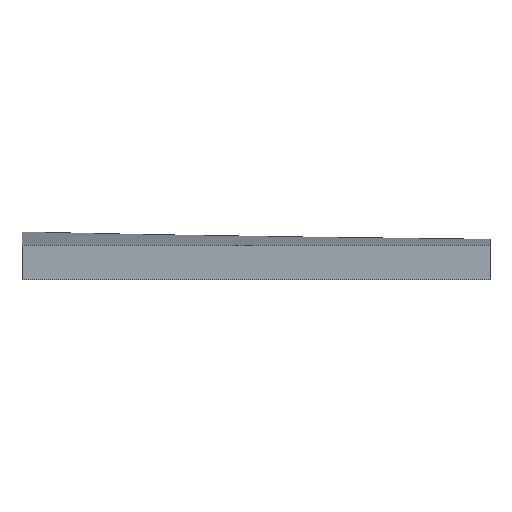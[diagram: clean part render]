
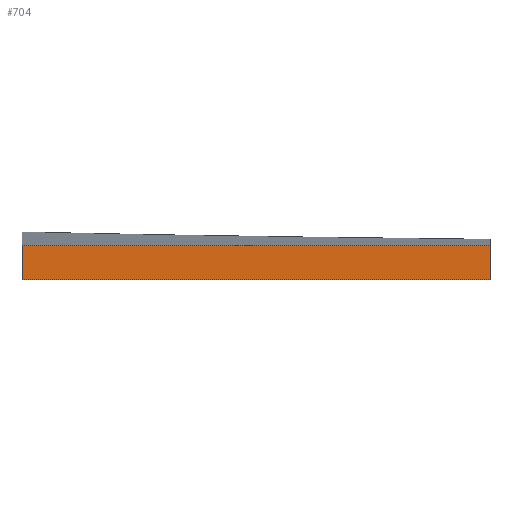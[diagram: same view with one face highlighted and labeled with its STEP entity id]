
A CAD part, top view. The second image highlights one B-rep face of the part: STEP entity #704.
In plain terms, the highlighted planar face has unit normal (0, 0, 1).
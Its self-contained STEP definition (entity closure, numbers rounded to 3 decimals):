
#59 = B_SPLINE_SURFACE_WITH_KNOTS('',8,3,(
    (#60,#61,#62,#63)
    ,(#64,#65,#66,#67)
    ,(#68,#69,#70,#71)
    ,(#72,#73,#74,#75)
    ,(#76,#77,#78,#79)
    ,(#80,#81,#82,#83)
    ,(#84,#85,#86,#87)
    ,(#88,#89,#90,#91)
    ,(#92,#93,#94,#95
    )),.UNSPECIFIED.,.F.,.F.,.F.,(9,9),(4,4),(4.,5.),(0.,1.),
  .PIECEWISE_BEZIER_KNOTS.);
#60 = CARTESIAN_POINT('',(329.,188.,100.));
#61 = CARTESIAN_POINT('',(333.035,186.258,
    217.091));
#62 = CARTESIAN_POINT('',(326.755,185.546,336.546
    ));
#63 = CARTESIAN_POINT('',(305.,176.,450.));
#64 = CARTESIAN_POINT('',(292.75,188.,100.));
#65 = CARTESIAN_POINT('',(293.885,186.258,
    217.091));
#66 = CARTESIAN_POINT('',(290.565,185.546,336.546
    ));
#67 = CARTESIAN_POINT('',(276.5,176.,450.));
#68 = CARTESIAN_POINT('',(256.5,188.,100.));
#69 = CARTESIAN_POINT('',(254.736,186.258,
    217.091));
#70 = CARTESIAN_POINT('',(254.375,185.546,336.546
    ));
#71 = CARTESIAN_POINT('',(248.,176.,450.));
#72 = CARTESIAN_POINT('',(220.25,188.,100.));
#73 = CARTESIAN_POINT('',(215.586,186.258,
    217.091));
#74 = CARTESIAN_POINT('',(218.185,185.546,336.546)
  );
#75 = CARTESIAN_POINT('',(219.5,176.,450.));
#76 = CARTESIAN_POINT('',(184.,188.,100.));
#77 = CARTESIAN_POINT('',(176.437,186.258,
    217.091));
#78 = CARTESIAN_POINT('',(181.994,185.546,336.546
    ));
#79 = CARTESIAN_POINT('',(191.,176.,450.));
#80 = CARTESIAN_POINT('',(147.75,188.,100.));
#81 = CARTESIAN_POINT('',(137.287,186.258,
    217.091));
#82 = CARTESIAN_POINT('',(145.804,185.546,336.546
    ));
#83 = CARTESIAN_POINT('',(162.5,176.,450.));
#84 = CARTESIAN_POINT('',(111.5,188.,100.));
#85 = CARTESIAN_POINT('',(98.138,186.258,
    217.091));
#86 = CARTESIAN_POINT('',(109.614,185.546,336.546
    ));
#87 = CARTESIAN_POINT('',(134.,176.,450.));
#88 = CARTESIAN_POINT('',(75.25,188.,100.));
#89 = CARTESIAN_POINT('',(58.988,186.258,
    217.091));
#90 = CARTESIAN_POINT('',(73.424,185.546,336.546
    ));
#91 = CARTESIAN_POINT('',(105.5,176.,450.));
#92 = CARTESIAN_POINT('',(39.,188.,100.));
#93 = CARTESIAN_POINT('',(19.839,186.258,
    217.091));
#94 = CARTESIAN_POINT('',(37.234,185.546,336.546)
  );
#95 = CARTESIAN_POINT('',(77.,176.,450.));
#170 = VERTEX_POINT('',#171);
#171 = CARTESIAN_POINT('',(70.,185.9,235.));
#263 = PLANE('',#264);
#264 = AXIS2_PLACEMENT_3D('',#265,#266,#267);
#265 = CARTESIAN_POINT('',(70.,-250.,0.));
#266 = DIRECTION('',(1.,0.,-0.));
#267 = DIRECTION('',(0.,0.,1.));
#309 = EDGE_CURVE('',#170,#310,#312,.T.);
#310 = VERTEX_POINT('',#311);
#311 = CARTESIAN_POINT('',(110.,185.9,235.));
#312 = SURFACE_CURVE('',#313,(#319,#328),.PCURVE_S1.);
#313 = B_SPLINE_CURVE_WITH_KNOTS('',4,(#314,#315,#316,#317,#318),
  .UNSPECIFIED.,.F.,.F.,(5,5),(0.,1.),.PIECEWISE_BEZIER_KNOTS.);
#314 = CARTESIAN_POINT('',(60.,185.9,235.));
#315 = CARTESIAN_POINT('',(72.5,185.9,235.));
#316 = CARTESIAN_POINT('',(85.,185.9,235.));
#317 = CARTESIAN_POINT('',(97.5,185.9,235.));
#318 = CARTESIAN_POINT('',(110.,185.9,235.));
#319 = PCURVE('',#59,#320);
#320 = DEFINITIONAL_REPRESENTATION('',(#321),#327);
#321 = B_SPLINE_CURVE_WITH_KNOTS('',4,(#322,#323,#324,#325,#326),
  .UNSPECIFIED.,.F.,.F.,(5,5),(0.,1.),.PIECEWISE_BEZIER_KNOTS.);
#322 = CARTESIAN_POINT('',(4.906,0.383));
#323 = CARTESIAN_POINT('',(4.864,0.383));
#324 = CARTESIAN_POINT('',(4.822,0.383));
#325 = CARTESIAN_POINT('',(4.78,0.383));
#326 = CARTESIAN_POINT('',(4.738,0.383));
#327 = ( GEOMETRIC_REPRESENTATION_CONTEXT(2) 
PARAMETRIC_REPRESENTATION_CONTEXT() REPRESENTATION_CONTEXT('2D SPACE',''
  ) );
#328 = PCURVE('',#329,#334);
#329 = PLANE('',#330);
#330 = AXIS2_PLACEMENT_3D('',#331,#332,#333);
#331 = CARTESIAN_POINT('',(60.,-250.,235.));
#332 = DIRECTION('',(0.,0.,1.));
#333 = DIRECTION('',(1.,0.,-0.));
#334 = DEFINITIONAL_REPRESENTATION('',(#335),#341);
#335 = B_SPLINE_CURVE_WITH_KNOTS('',4,(#336,#337,#338,#339,#340),
  .UNSPECIFIED.,.F.,.F.,(5,5),(0.,1.),.PIECEWISE_BEZIER_KNOTS.);
#336 = CARTESIAN_POINT('',(0.,435.9));
#337 = CARTESIAN_POINT('',(12.5,435.9));
#338 = CARTESIAN_POINT('',(25.,435.9));
#339 = CARTESIAN_POINT('',(37.5,435.9));
#340 = CARTESIAN_POINT('',(50.,435.9));
#341 = ( GEOMETRIC_REPRESENTATION_CONTEXT(2) 
PARAMETRIC_REPRESENTATION_CONTEXT() REPRESENTATION_CONTEXT('2D SPACE',''
  ) );
#387 = PLANE('',#388);
#388 = AXIS2_PLACEMENT_3D('',#389,#390,#391);
#389 = CARTESIAN_POINT('',(110.,-250.,0.));
#390 = DIRECTION('',(1.,0.,-0.));
#391 = DIRECTION('',(0.,0.,1.));
#475 = B_SPLINE_SURFACE_WITH_KNOTS('',8,3,(
    (#476,#477,#478,#479)
    ,(#480,#481,#482,#483)
    ,(#484,#485,#486,#487)
    ,(#488,#489,#490,#491)
    ,(#492,#493,#494,#495)
    ,(#496,#497,#498,#499)
    ,(#500,#501,#502,#503)
    ,(#504,#505,#506,#507)
    ,(#508,#509,#510,#511
    )),.UNSPECIFIED.,.F.,.F.,.F.,(9,9),(4,4),(4.,5.),(0.,1.),
  .PIECEWISE_BEZIER_KNOTS.);
#476 = CARTESIAN_POINT('',(329.,185.,97.));
#477 = CARTESIAN_POINT('',(332.161,182.923,
    213.778));
#478 = CARTESIAN_POINT('',(328.615,183.321,
    334.206));
#479 = CARTESIAN_POINT('',(305.,173.,447.));
#480 = CARTESIAN_POINT('',(292.75,185.,97.));
#481 = CARTESIAN_POINT('',(293.343,182.923,
    213.778));
#482 = CARTESIAN_POINT('',(291.752,183.321,
    334.206));
#483 = CARTESIAN_POINT('',(276.5,173.,447.));
#484 = CARTESIAN_POINT('',(256.5,185.,97.));
#485 = CARTESIAN_POINT('',(254.525,182.923,
    213.778));
#486 = CARTESIAN_POINT('',(254.889,183.321,
    334.206));
#487 = CARTESIAN_POINT('',(248.,173.,447.));
#488 = CARTESIAN_POINT('',(220.25,185.,97.));
#489 = CARTESIAN_POINT('',(215.707,182.923,
    213.778));
#490 = CARTESIAN_POINT('',(218.027,183.321,
    334.206));
#491 = CARTESIAN_POINT('',(219.5,173.,447.));
#492 = CARTESIAN_POINT('',(184.,185.,97.));
#493 = CARTESIAN_POINT('',(176.889,182.923,
    213.778));
#494 = CARTESIAN_POINT('',(181.164,183.321,
    334.206));
#495 = CARTESIAN_POINT('',(191.,173.,447.));
#496 = CARTESIAN_POINT('',(147.75,185.,97.));
#497 = CARTESIAN_POINT('',(138.071,182.923,
    213.778));
#498 = CARTESIAN_POINT('',(144.302,183.321,
    334.206));
#499 = CARTESIAN_POINT('',(162.5,173.,447.));
#500 = CARTESIAN_POINT('',(111.5,185.,97.));
#501 = CARTESIAN_POINT('',(99.253,182.923,
    213.778));
#502 = CARTESIAN_POINT('',(107.439,183.321,
    334.206));
#503 = CARTESIAN_POINT('',(134.,173.,447.));
#504 = CARTESIAN_POINT('',(75.25,185.,97.));
#505 = CARTESIAN_POINT('',(60.435,182.923,
    213.778));
#506 = CARTESIAN_POINT('',(70.576,183.321,
    334.206));
#507 = CARTESIAN_POINT('',(105.5,173.,447.));
#508 = CARTESIAN_POINT('',(39.,185.,97.));
#509 = CARTESIAN_POINT('',(21.617,182.923,213.778
    ));
#510 = CARTESIAN_POINT('',(33.714,183.321,
    334.206));
#511 = CARTESIAN_POINT('',(77.,173.,447.));
#590 = EDGE_CURVE('',#591,#310,#593,.T.);
#591 = VERTEX_POINT('',#592);
#592 = CARTESIAN_POINT('',(110.,182.91,235.));
#593 = SURFACE_CURVE('',#594,(#598,#605),.PCURVE_S1.);
#594 = LINE('',#595,#596);
#595 = CARTESIAN_POINT('',(110.,-250.,235.));
#596 = VECTOR('',#597,1.);
#597 = DIRECTION('',(-0.,1.,0.));
#598 = PCURVE('',#387,#599);
#599 = DEFINITIONAL_REPRESENTATION('',(#600),#604);
#600 = LINE('',#601,#602);
#601 = CARTESIAN_POINT('',(235.,0.));
#602 = VECTOR('',#603,1.);
#603 = DIRECTION('',(0.,-1.));
#604 = ( GEOMETRIC_REPRESENTATION_CONTEXT(2) 
PARAMETRIC_REPRESENTATION_CONTEXT() REPRESENTATION_CONTEXT('2D SPACE',''
  ) );
#605 = PCURVE('',#329,#606);
#606 = DEFINITIONAL_REPRESENTATION('',(#607),#611);
#607 = LINE('',#608,#609);
#608 = CARTESIAN_POINT('',(50.,0.));
#609 = VECTOR('',#610,1.);
#610 = DIRECTION('',(0.,1.));
#611 = ( GEOMETRIC_REPRESENTATION_CONTEXT(2) 
PARAMETRIC_REPRESENTATION_CONTEXT() REPRESENTATION_CONTEXT('2D SPACE',''
  ) );
#704 = ADVANCED_FACE('',(#705),#329,.T.);
#705 = FACE_BOUND('',#706,.T.);
#706 = EDGE_LOOP('',(#707,#708,#709,#732));
#707 = ORIENTED_EDGE('',*,*,#590,.T.);
#708 = ORIENTED_EDGE('',*,*,#309,.F.);
#709 = ORIENTED_EDGE('',*,*,#710,.T.);
#710 = EDGE_CURVE('',#170,#711,#713,.T.);
#711 = VERTEX_POINT('',#712);
#712 = CARTESIAN_POINT('',(70.,182.91,235.));
#713 = SURFACE_CURVE('',#714,(#718,#725),.PCURVE_S1.);
#714 = LINE('',#715,#716);
#715 = CARTESIAN_POINT('',(70.,-250.,235.));
#716 = VECTOR('',#717,1.);
#717 = DIRECTION('',(0.,-1.,0.));
#718 = PCURVE('',#329,#719);
#719 = DEFINITIONAL_REPRESENTATION('',(#720),#724);
#720 = LINE('',#721,#722);
#721 = CARTESIAN_POINT('',(10.,0.));
#722 = VECTOR('',#723,1.);
#723 = DIRECTION('',(0.,-1.));
#724 = ( GEOMETRIC_REPRESENTATION_CONTEXT(2) 
PARAMETRIC_REPRESENTATION_CONTEXT() REPRESENTATION_CONTEXT('2D SPACE',''
  ) );
#725 = PCURVE('',#263,#726);
#726 = DEFINITIONAL_REPRESENTATION('',(#727),#731);
#727 = LINE('',#728,#729);
#728 = CARTESIAN_POINT('',(235.,0.));
#729 = VECTOR('',#730,1.);
#730 = DIRECTION('',(0.,1.));
#731 = ( GEOMETRIC_REPRESENTATION_CONTEXT(2) 
PARAMETRIC_REPRESENTATION_CONTEXT() REPRESENTATION_CONTEXT('2D SPACE',''
  ) );
#732 = ORIENTED_EDGE('',*,*,#733,.T.);
#733 = EDGE_CURVE('',#711,#591,#734,.T.);
#734 = SURFACE_CURVE('',#735,(#742,#752),.PCURVE_S1.);
#735 = B_SPLINE_CURVE_WITH_KNOTS('',5,(#736,#737,#738,#739,#740,#741),
  .UNSPECIFIED.,.F.,.F.,(6,6),(0.,1.),.PIECEWISE_BEZIER_KNOTS.);
#736 = CARTESIAN_POINT('',(60.,182.91,235.));
#737 = CARTESIAN_POINT('',(70.139,182.91,235.));
#738 = CARTESIAN_POINT('',(78.671,182.91,235.));
#739 = CARTESIAN_POINT('',(89.873,182.91,235.));
#740 = CARTESIAN_POINT('',(102.587,182.91,235.));
#741 = CARTESIAN_POINT('',(110.,182.91,235.));
#742 = PCURVE('',#329,#743);
#743 = DEFINITIONAL_REPRESENTATION('',(#744),#751);
#744 = B_SPLINE_CURVE_WITH_KNOTS('',5,(#745,#746,#747,#748,#749,#750),
  .UNSPECIFIED.,.F.,.F.,(6,6),(0.,1.),.PIECEWISE_BEZIER_KNOTS.);
#745 = CARTESIAN_POINT('',(0.,432.91));
#746 = CARTESIAN_POINT('',(10.139,432.91));
#747 = CARTESIAN_POINT('',(18.671,432.91));
#748 = CARTESIAN_POINT('',(29.873,432.91));
#749 = CARTESIAN_POINT('',(42.587,432.91));
#750 = CARTESIAN_POINT('',(50.,432.91));
#751 = ( GEOMETRIC_REPRESENTATION_CONTEXT(2) 
PARAMETRIC_REPRESENTATION_CONTEXT() REPRESENTATION_CONTEXT('2D SPACE',''
  ) );
#752 = PCURVE('',#475,#753);
#753 = DEFINITIONAL_REPRESENTATION('',(#754),#761);
#754 = B_SPLINE_CURVE_WITH_KNOTS('',5,(#755,#756,#757,#758,#759,#760),
  .UNSPECIFIED.,.F.,.F.,(6,6),(0.,1.),.PIECEWISE_BEZIER_KNOTS.);
#755 = CARTESIAN_POINT('',(4.906,0.391));
#756 = CARTESIAN_POINT('',(4.872,0.391));
#757 = CARTESIAN_POINT('',(4.843,0.391));
#758 = CARTESIAN_POINT('',(4.806,0.391));
#759 = CARTESIAN_POINT('',(4.763,0.391));
#760 = CARTESIAN_POINT('',(4.738,0.391));
#761 = ( GEOMETRIC_REPRESENTATION_CONTEXT(2) 
PARAMETRIC_REPRESENTATION_CONTEXT() REPRESENTATION_CONTEXT('2D SPACE',''
  ) );
